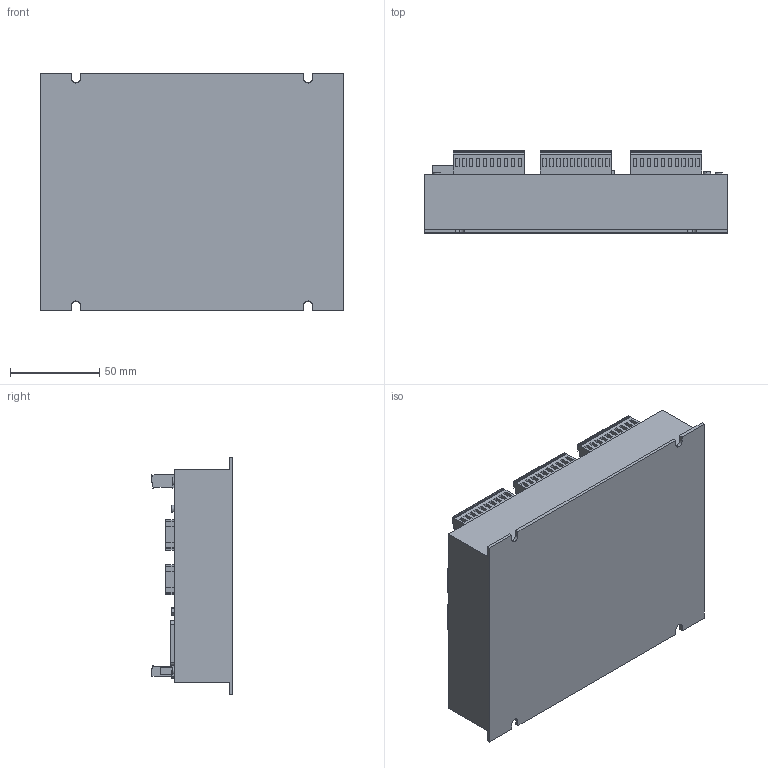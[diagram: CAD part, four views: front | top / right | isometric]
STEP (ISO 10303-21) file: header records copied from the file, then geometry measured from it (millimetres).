
FILE_DESCRIPTION (( 'STEP AP203' ), '1' );
FILE_NAME ('eio16084.STEP', '2022-07-25T08:08:56', ( '' ), ( '' ), 'SwSTEP 2.0', 'SolidWorks 2019', '' );
FILE_SCHEMA (( 'CONFIG_CONTROL_DESIGN' ));
Length unit declared in the file: millimetre
Products named in the file (1): eio16084
Bounding box: 170 x 45.8 x 133 mm (x, y, z)
Volume: 682658.8 mm3; surface area: 75294.3 mm2
Topology: 1 solids, 1 shells, 1135 faces, 2715 edges, 1810 vertices
Faces by surface type: plane 755, cylinder 380
Entity records: 33006 total; most frequent: DIRECTION 5747, CARTESIAN_POINT 5661, ORIENTED_EDGE 5430, EDGE_CURVE 2715, VECTOR 1955, LINE 1955, AXIS2_PLACEMENT_3D 1896, VERTEX_POINT 1810
